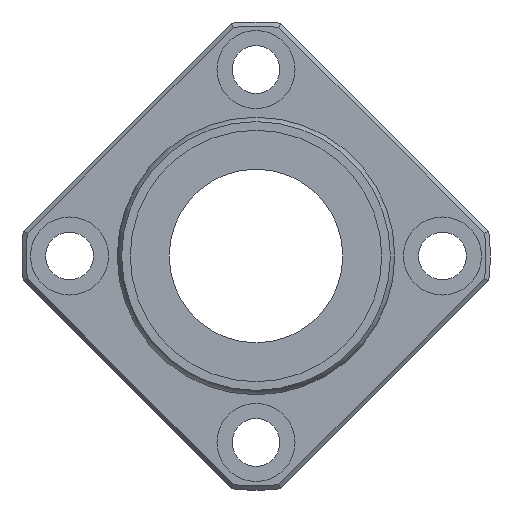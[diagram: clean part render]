
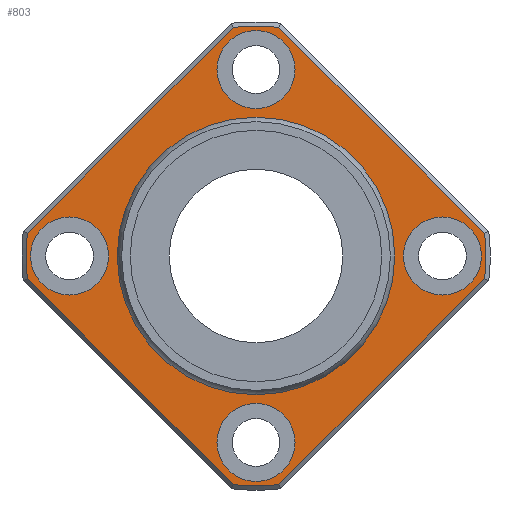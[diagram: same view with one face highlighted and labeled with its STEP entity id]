
A CAD part, left-side view. The second image highlights one B-rep face of the part: STEP entity #803.
In plain terms, the highlighted planar face has unit normal (-1, 0, 0).
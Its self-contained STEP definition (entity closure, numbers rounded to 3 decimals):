
#498=CARTESIAN_POINT('',(41.5,-2.621,-26.37));
#499=VERTEX_POINT('',#498);
#507=CARTESIAN_POINT('',(41.5,2.621,-26.37));
#508=VERTEX_POINT('',#507);
#509=CARTESIAN_POINT('',(41.5,0.0,0.0));
#510=DIRECTION('',(1.0,0.0,0.0));
#511=DIRECTION('',(0.0,0.0,-1.0));
#512=AXIS2_PLACEMENT_3D('',#509,#510,#511);
#513=CIRCLE('',#512,26.5);
#514=EDGE_CURVE('',#499,#508,#513,.T.);
#540=CARTESIAN_POINT('',(41.5,26.37,-2.621));
#541=VERTEX_POINT('',#540);
#542=CARTESIAN_POINT('',(41.5,2.621,-26.37));
#543=DIRECTION('',(0.0,0.707,0.707));
#544=VECTOR('',#543,33.586);
#545=LINE('',#542,#544);
#546=EDGE_CURVE('',#508,#541,#545,.T.);
#573=CARTESIAN_POINT('',(41.5,26.37,2.621));
#574=VERTEX_POINT('',#573);
#575=CARTESIAN_POINT('',(41.5,0.0,0.0));
#576=DIRECTION('',(1.0,0.0,0.0));
#577=DIRECTION('',(0.0,0.0,1.0));
#578=AXIS2_PLACEMENT_3D('',#575,#576,#577);
#579=CIRCLE('',#578,26.5);
#580=EDGE_CURVE('',#541,#574,#579,.T.);
#604=CARTESIAN_POINT('',(41.5,2.621,26.37));
#605=VERTEX_POINT('',#604);
#606=CARTESIAN_POINT('',(41.5,26.37,2.621));
#607=DIRECTION('',(0.0,-0.707,0.707));
#608=VECTOR('',#607,33.586);
#609=LINE('',#606,#608);
#610=EDGE_CURVE('',#574,#605,#609,.T.);
#629=CARTESIAN_POINT('',(41.5,-2.621,26.37));
#630=VERTEX_POINT('',#629);
#631=CARTESIAN_POINT('',(41.5,0.0,0.0));
#632=DIRECTION('',(1.0,0.0,0.0));
#633=DIRECTION('',(0.0,0.0,1.0));
#634=AXIS2_PLACEMENT_3D('',#631,#632,#633);
#635=CIRCLE('',#634,26.5);
#636=EDGE_CURVE('',#605,#630,#635,.T.);
#655=CARTESIAN_POINT('',(41.5,-26.37,2.621));
#656=VERTEX_POINT('',#655);
#657=CARTESIAN_POINT('',(41.5,-2.621,26.37));
#658=DIRECTION('',(0.0,-0.707,-0.707));
#659=VECTOR('',#658,33.586);
#660=LINE('',#657,#659);
#661=EDGE_CURVE('',#630,#656,#660,.T.);
#680=CARTESIAN_POINT('',(41.5,-26.37,-2.621));
#681=VERTEX_POINT('',#680);
#682=CARTESIAN_POINT('',(41.5,0.0,0.0));
#683=DIRECTION('',(1.0,0.0,0.0));
#684=DIRECTION('',(0.0,0.0,1.0));
#685=AXIS2_PLACEMENT_3D('',#682,#683,#684);
#686=CIRCLE('',#685,26.5);
#687=EDGE_CURVE('',#656,#681,#686,.T.);
#706=CARTESIAN_POINT('',(41.5,-26.37,-2.621));
#707=DIRECTION('',(0.0,0.707,-0.707));
#708=VECTOR('',#707,33.586);
#709=LINE('',#706,#708);
#710=EDGE_CURVE('',#681,#499,#709,.T.);
#733=CARTESIAN_POINT('',(41.5,0.0,21.387));
#734=DIRECTION('',(-1.0,0.0,0.0));
#735=DIRECTION('',(0.0,0.0,1.0));
#736=AXIS2_PLACEMENT_3D('',#733,#734,#735);
#737=PLANE('',#736);
#738=ORIENTED_EDGE('',*,*,#514,.F.);
#739=ORIENTED_EDGE('',*,*,#710,.F.);
#740=ORIENTED_EDGE('',*,*,#687,.F.);
#741=ORIENTED_EDGE('',*,*,#661,.F.);
#742=ORIENTED_EDGE('',*,*,#636,.F.);
#743=ORIENTED_EDGE('',*,*,#610,.F.);
#744=ORIENTED_EDGE('',*,*,#580,.F.);
#745=ORIENTED_EDGE('',*,*,#546,.F.);
#746=EDGE_LOOP('',(#738,#739,#740,#741,#742,#743,#744,#745));
#747=FACE_OUTER_BOUND('',#746,.T.);
#748=CARTESIAN_POINT('',(41.5,0.0,15.773));
#749=VERTEX_POINT('',#748);
#750=CARTESIAN_POINT('',(41.5,0.0,0.0));
#751=DIRECTION('',(-1.0,0.0,0.0));
#752=DIRECTION('',(0.0,0.0,1.0));
#753=AXIS2_PLACEMENT_3D('',#750,#751,#752);
#754=CIRCLE('',#753,15.773);
#755=EDGE_CURVE('',#749,#749,#754,.T.);
#756=ORIENTED_EDGE('',*,*,#755,.F.);
#757=EDGE_LOOP('',(#756));
#758=FACE_BOUND('',#757,.T.);
#759=CARTESIAN_POINT('',(41.5,-17.0,0.));
#760=VERTEX_POINT('',#759);
#761=CARTESIAN_POINT('',(41.5,-21.5,0.));
#762=DIRECTION('',(1.0,0.0,0.0));
#763=DIRECTION('',(0.0,1.0,0.0));
#764=AXIS2_PLACEMENT_3D('',#761,#762,#763);
#765=CIRCLE('',#764,4.5);
#766=EDGE_CURVE('',#760,#760,#765,.T.);
#767=ORIENTED_EDGE('',*,*,#766,.T.);
#768=EDGE_LOOP('',(#767));
#769=FACE_BOUND('',#768,.T.);
#770=CARTESIAN_POINT('',(41.5,26.0,0.));
#771=VERTEX_POINT('',#770);
#772=CARTESIAN_POINT('',(41.5,21.5,0.));
#773=DIRECTION('',(1.0,0.0,0.0));
#774=DIRECTION('',(0.0,1.0,0.0));
#775=AXIS2_PLACEMENT_3D('',#772,#773,#774);
#776=CIRCLE('',#775,4.5);
#777=EDGE_CURVE('',#771,#771,#776,.T.);
#778=ORIENTED_EDGE('',*,*,#777,.T.);
#779=EDGE_LOOP('',(#778));
#780=FACE_BOUND('',#779,.T.);
#781=CARTESIAN_POINT('',(41.5,4.5,21.5));
#782=VERTEX_POINT('',#781);
#783=CARTESIAN_POINT('',(41.5,0.,21.5));
#784=DIRECTION('',(1.0,0.0,0.0));
#785=DIRECTION('',(0.0,1.0,0.0));
#786=AXIS2_PLACEMENT_3D('',#783,#784,#785);
#787=CIRCLE('',#786,4.5);
#788=EDGE_CURVE('',#782,#782,#787,.T.);
#789=ORIENTED_EDGE('',*,*,#788,.T.);
#790=EDGE_LOOP('',(#789));
#791=FACE_BOUND('',#790,.T.);
#792=CARTESIAN_POINT('',(41.5,4.5,-21.5));
#793=VERTEX_POINT('',#792);
#794=CARTESIAN_POINT('',(41.5,0.,-21.5));
#795=DIRECTION('',(1.0,0.0,0.0));
#796=DIRECTION('',(0.0,1.0,0.0));
#797=AXIS2_PLACEMENT_3D('',#794,#795,#796);
#798=CIRCLE('',#797,4.5);
#799=EDGE_CURVE('',#793,#793,#798,.T.);
#800=ORIENTED_EDGE('',*,*,#799,.T.);
#801=EDGE_LOOP('',(#800));
#802=FACE_BOUND('',#801,.T.);
#803=ADVANCED_FACE('',(#747,#758,#769,#780,#791,#802),#737,.T.);
